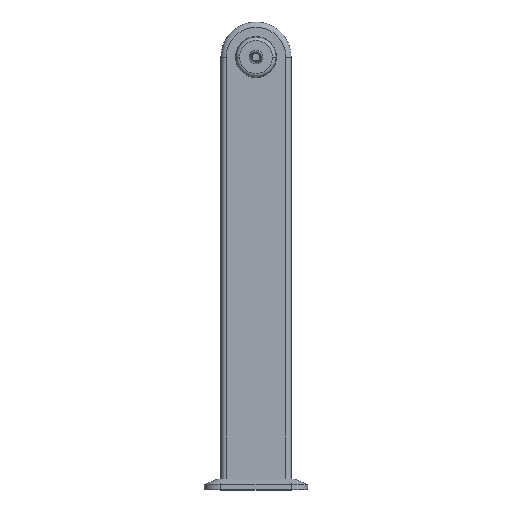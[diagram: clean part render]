
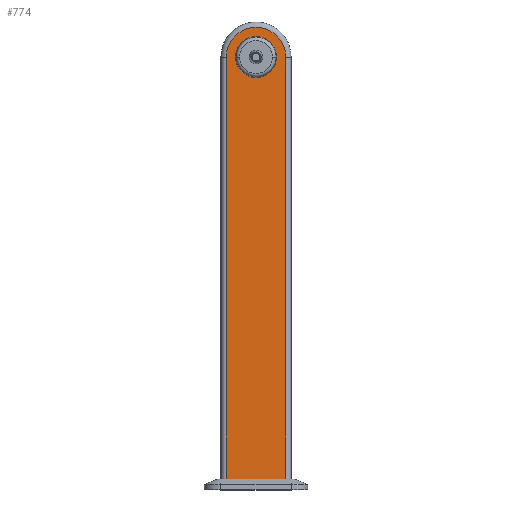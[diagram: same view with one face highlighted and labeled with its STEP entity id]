
A CAD part, top view. The second image highlights one B-rep face of the part: STEP entity #774.
In plain terms, the highlighted planar face has unit normal (0, 0, 1).
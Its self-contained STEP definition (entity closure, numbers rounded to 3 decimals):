
#4 = EDGE_CURVE ( 'NONE', #1617, #1082, #1735, .T. ) ;
#19 = DIRECTION ( 'NONE',  ( 0., 0., 1. ) ) ;
#66 = CARTESIAN_POINT ( 'NONE',  ( 55., 0., 31.25 ) ) ;
#146 = CARTESIAN_POINT ( 'NONE',  ( 0., -780., 31.25 ) ) ;
#183 = DIRECTION ( 'NONE',  ( 1., 0., 0. ) ) ;
#194 = ORIENTED_EDGE ( 'NONE', *, *, #2053, .T. ) ;
#321 = CARTESIAN_POINT ( 'NONE',  ( -55., 0., 31.25 ) ) ;
#328 = DIRECTION ( 'NONE',  ( 1., 0., 0. ) ) ;
#443 = VECTOR ( 'NONE', #912, 1000. ) ;
#455 = ORIENTED_EDGE ( 'NONE', *, *, #1739, .T. ) ;
#514 = DIRECTION ( 'NONE',  ( 0., -1., 0. ) ) ;
#556 = PLANE ( 'NONE',  #2933 ) ;
#563 = VECTOR ( 'NONE', #514, 1000. ) ;
#569 = CIRCLE ( 'NONE', #2301, 38. ) ;
#657 = AXIS2_PLACEMENT_3D ( 'NONE', #3086, #1664, #183 ) ;
#663 = VECTOR ( 'NONE', #1797, 1000. ) ;
#680 = VERTEX_POINT ( 'NONE', #2597 ) ;
#773 = EDGE_CURVE ( 'NONE', #1082, #1617, #569, .T. ) ;
#774 = ADVANCED_FACE ( 'NONE', ( #2406, #3030 ), #556, .T. ) ;
#867 = VERTEX_POINT ( 'NONE', #321 ) ;
#912 = DIRECTION ( 'NONE',  ( 1., 0., 0. ) ) ;
#1002 = CIRCLE ( 'NONE', #657, 55. ) ;
#1036 = CARTESIAN_POINT ( 'NONE',  ( 0., 0., 31.25 ) ) ;
#1082 = VERTEX_POINT ( 'NONE', #1626 ) ;
#1092 = EDGE_CURVE ( 'NONE', #2146, #1458, #1729, .T. ) ;
#1276 = CARTESIAN_POINT ( 'NONE',  ( 0., 0., 31.25 ) ) ;
#1339 = ORIENTED_EDGE ( 'NONE', *, *, #1092, .T. ) ;
#1375 = EDGE_LOOP ( 'NONE', ( #2249, #194, #455, #1339 ) ) ;
#1458 = VERTEX_POINT ( 'NONE', #2784 ) ;
#1521 = DIRECTION ( 'NONE',  ( 1., 0., 0. ) ) ;
#1617 = VERTEX_POINT ( 'NONE', #2845 ) ;
#1626 = CARTESIAN_POINT ( 'NONE',  ( -38., 0., 31.25 ) ) ;
#1664 = DIRECTION ( 'NONE',  ( 0., 0., 1. ) ) ;
#1729 = LINE ( 'NONE', #146, #443 ) ;
#1735 = CIRCLE ( 'NONE', #2316, 38. ) ;
#1739 = EDGE_CURVE ( 'NONE', #867, #2146, #3021, .T. ) ;
#1756 = DIRECTION ( 'NONE',  ( 1., 0., 0. ) ) ;
#1785 = DIRECTION ( 'NONE',  ( 0., 0., 1. ) ) ;
#1797 = DIRECTION ( 'NONE',  ( 0., 1., 0. ) ) ;
#1808 = ORIENTED_EDGE ( 'NONE', *, *, #4, .F. ) ;
#1948 = CARTESIAN_POINT ( 'NONE',  ( -55., -780., 31.25 ) ) ;
#2053 = EDGE_CURVE ( 'NONE', #680, #867, #1002, .T. ) ;
#2105 = ORIENTED_EDGE ( 'NONE', *, *, #773, .F. ) ;
#2146 = VERTEX_POINT ( 'NONE', #1948 ) ;
#2249 = ORIENTED_EDGE ( 'NONE', *, *, #2381, .T. ) ;
#2301 = AXIS2_PLACEMENT_3D ( 'NONE', #1276, #2939, #1521 ) ;
#2310 = CARTESIAN_POINT ( 'NONE',  ( 0., 0., 31.25 ) ) ;
#2316 = AXIS2_PLACEMENT_3D ( 'NONE', #2310, #1785, #328 ) ;
#2381 = EDGE_CURVE ( 'NONE', #1458, #680, #2504, .T. ) ;
#2406 = FACE_OUTER_BOUND ( 'NONE', #1375, .T. ) ;
#2504 = LINE ( 'NONE', #66, #663 ) ;
#2597 = CARTESIAN_POINT ( 'NONE',  ( 55., 0., 31.25 ) ) ;
#2784 = CARTESIAN_POINT ( 'NONE',  ( 55., -780., 31.25 ) ) ;
#2845 = CARTESIAN_POINT ( 'NONE',  ( 38., 0., 31.25 ) ) ;
#2885 = EDGE_LOOP ( 'NONE', ( #1808, #2105 ) ) ;
#2904 = CARTESIAN_POINT ( 'NONE',  ( -55., -800., 31.25 ) ) ;
#2933 = AXIS2_PLACEMENT_3D ( 'NONE', #1036, #19, #1756 ) ;
#2939 = DIRECTION ( 'NONE',  ( 0., 0., 1. ) ) ;
#3021 = LINE ( 'NONE', #2904, #563 ) ;
#3030 = FACE_BOUND ( 'NONE', #2885, .T. ) ;
#3086 = CARTESIAN_POINT ( 'NONE',  ( 0., 0., 31.25 ) ) ;
